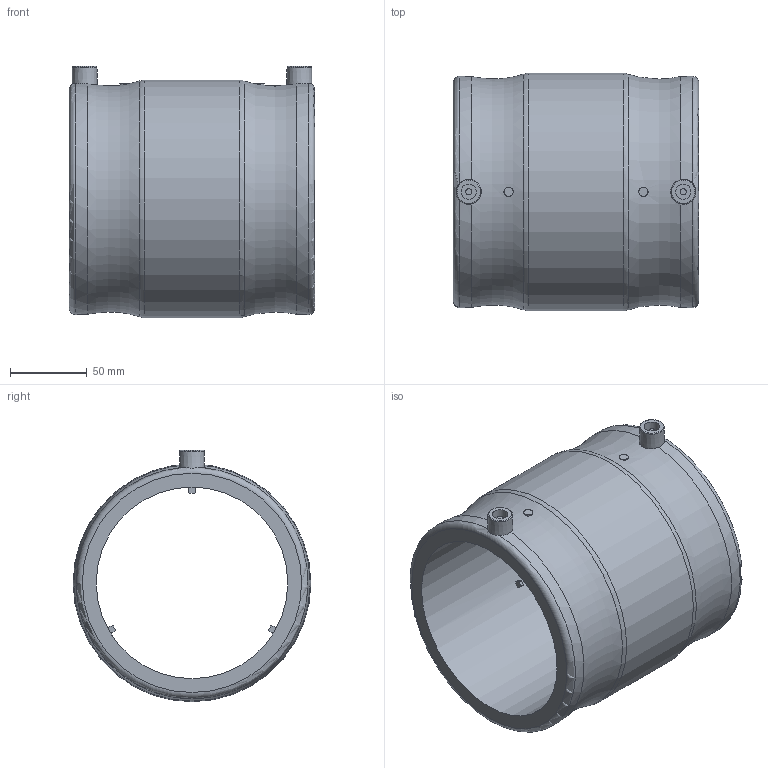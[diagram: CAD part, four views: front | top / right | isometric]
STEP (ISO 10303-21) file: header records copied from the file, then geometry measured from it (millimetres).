
FILE_DESCRIPTION(/* description */ ('Unknown'),/* implementation_level */ '2;1');
FILE_NAME(/* name */ 'MP125A',/* time_stamp */ '2021-05-06T10:39:42+02:00',/* author */ ('Unknown'),/* organization */ ('Unknown'),/* preprocessor_version */ 'ST-DEVELOPER v16.7',/* originating_system */ 'Solid Edge',/* authorisation */ 'Unknown');
FILE_SCHEMA (('AUTOMOTIVE_DESIGN {1 0 10303 214 3 1 1}'));
Length unit declared in the file: millimetre
Products named in the file (1): MP125A
Bounding box: 160 x 155 x 164 mm (x, y, z)
Volume: 936902.9 mm3; surface area: 151809.9 mm2
Topology: 1 solids, 1 shells, 53 faces, 127 edges, 83 vertices
Faces by surface type: plane 27, cylinder 16, torus 8, cone 2
Full cylindrical faces by diameter (mm): 4 x2, 6 x2, 10 x2, 125 x1, 155 x1
Entity records: 1410 total; most frequent: CARTESIAN_POINT 288, DIRECTION 236, ORIENTED_EDGE 188, AXIS2_PLACEMENT_3D 100, EDGE_CURVE 94, EDGE_LOOP 82, FACE_BOUND 82, VERTEX_POINT 70
